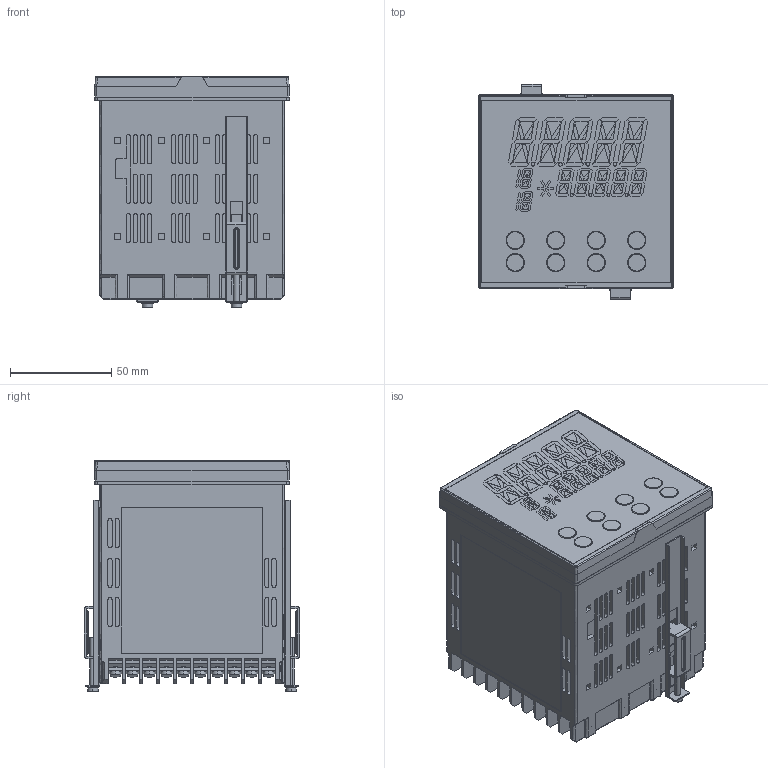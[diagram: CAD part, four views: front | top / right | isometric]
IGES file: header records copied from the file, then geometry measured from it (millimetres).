
Start section: SolidWorks IGES file using analytic representation for surfaces
Global section: file name: C:\Users\kawanishi.SHINKO-TECHNOS\3D データ\PCA1\D16-006\HP_3D\PCA1_iges\AS_PCA1_170123.IGS,15; native system: HSolidWorks 2013; preprocessor: SolidWorks 2013; author: kawanishi; date: 170123.150955; units: millimetre
Bounding box: 96 x 106.2 x 114.4 mm (x, y, z)
Surface area: 97116.8 mm2 (no closed solid volume)
Topology: 0 solids, 0 shells, 2825 faces, 24902 edges, 24902 vertices
Faces by surface type: bspline 2247, revolution 578
